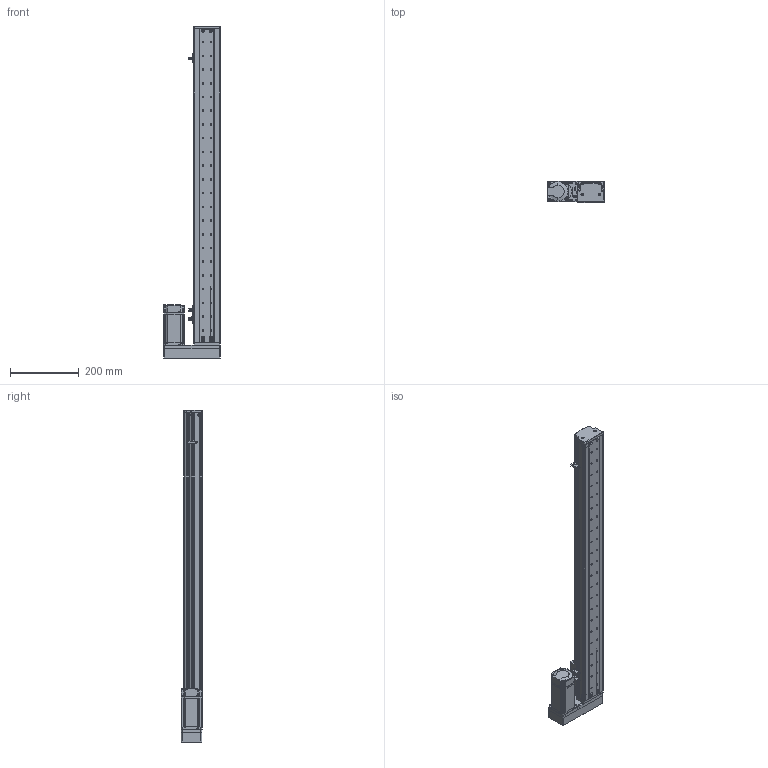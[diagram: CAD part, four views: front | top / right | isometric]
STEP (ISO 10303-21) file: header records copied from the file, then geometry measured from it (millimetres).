
FILE_DESCRIPTION (( 'STEP AP214' ), '1' );
FILE_NAME ('KSD75S-S760-MR-CM.STEP', '2019-10-18T07:25:19', ( '微软用户' ), ( '微软中国' ), 'SwSTEP 2.0', 'SolidWorks 2014', '' );
FILE_SCHEMA (( 'AUTOMOTIVE_DESIGN' ));
Length unit declared in the file: millimetre
Products named in the file (14): 75宽马达安装板连板左右折丝杆; 覜茼え100遵圉猾敕; 75遵耀郪盓傅釱1; U倰嫖萇EEㄜSX672; 綴傷啣 ; ヶ傷啣; 75裔啣-760俴最; 75遵耀郪耜啣-760俴最; 75遵賑雄釱; MGW15H賑寢760; 760俴最; KSD75S-S760-MR-CM; MHMD042G1CA_2_03; 75宽模组保护罩左右折
Assembly tree (16 placements, depth 3):
  KSD75S-S760-MR-CM
    MGW15H賑寢760
      760俴最
    75遵賑雄釱
    75遵耀郪耜啣-760俴最  x2
    75裔啣-760俴最
    ヶ傷啣
    綴傷啣 
    U倰嫖萇EEㄜSX672  x3
    75遵耀郪盓傅釱1
    覜茼え100遵圉猾敕
    75宽马达安装板连板左右折丝杆
    75宽模组保护罩左右折
    MHMD042G1CA_2_03
Bounding box: 165 x 63 x 967.5 mm (x, y, z)
Volume: 1194226.2 mm3; surface area: 747149.4 mm2
Topology: 14 solids, 15 shells, 1634 faces, 4566 edges, 2968 vertices
Faces by surface type: cylinder 801, plane 659, cone 156, bspline 18
Entity records: 52413 total; most frequent: CARTESIAN_POINT 9840, DIRECTION 7973, ORIENTED_EDGE 7372, EDGE_CURVE 3757, AXIS2_PLACEMENT_3D 2962, VERTEX_POINT 2486, LINE 2049, VECTOR 2049
